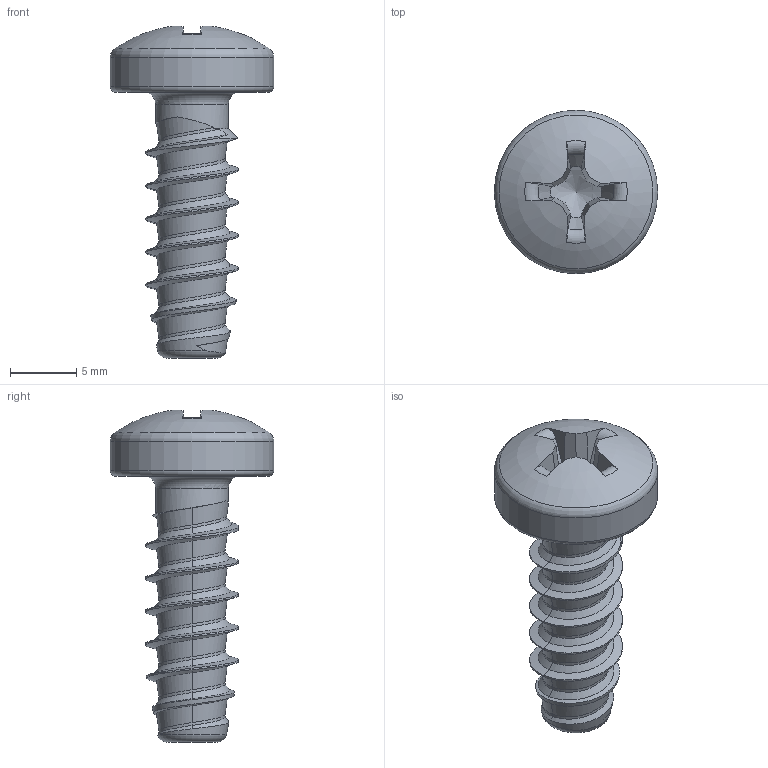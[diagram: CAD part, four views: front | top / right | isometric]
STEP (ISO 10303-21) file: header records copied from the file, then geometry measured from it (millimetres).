
FILE_DESCRIPTION(/* description */ (''),/* implementation_level */ '2;1');
FILE_NAME(/* name */ 'KN6032-STSplus-70x20-H3.step',/* time_stamp */ '2017-10-10T15:42:21+02:00',/* author */ (''),/* organization */ (''),/* preprocessor_version */ 'ST-DEVELOPER v16',/* originating_system */ 'SIEMENS PLM Software NX 10.0',/* authorisation */ '');
FILE_SCHEMA (('AUTOMOTIVE_DESIGN { 1 0 10303 214 3 1 1 1 }'));
Length unit declared in the file: millimetre
Products named in the file (1): KN6032-STSplus-70x20-H3
Bounding box: 12.3 x 12.3 x 24.99 mm (x, y, z)
Volume: 914.6 mm3; surface area: 866.3 mm2
Topology: 1 solids, 1 shells, 76 faces, 192 edges, 118 vertices
Faces by surface type: bspline 39, plane 18, torus 8, cone 7, cylinder 3, sphere 1
Full cylindrical faces by diameter (mm): 5.48 x1, 12.3 x1
Entity records: 4605 total; most frequent: CARTESIAN_POINT 3105, ORIENTED_EDGE 356, DIRECTION 201, EDGE_CURVE 178, VERTEX_POINT 113, B_SPLINE_CURVE_WITH_KNOTS 92, EDGE_LOOP 84, AXIS2_PLACEMENT_3D 77
